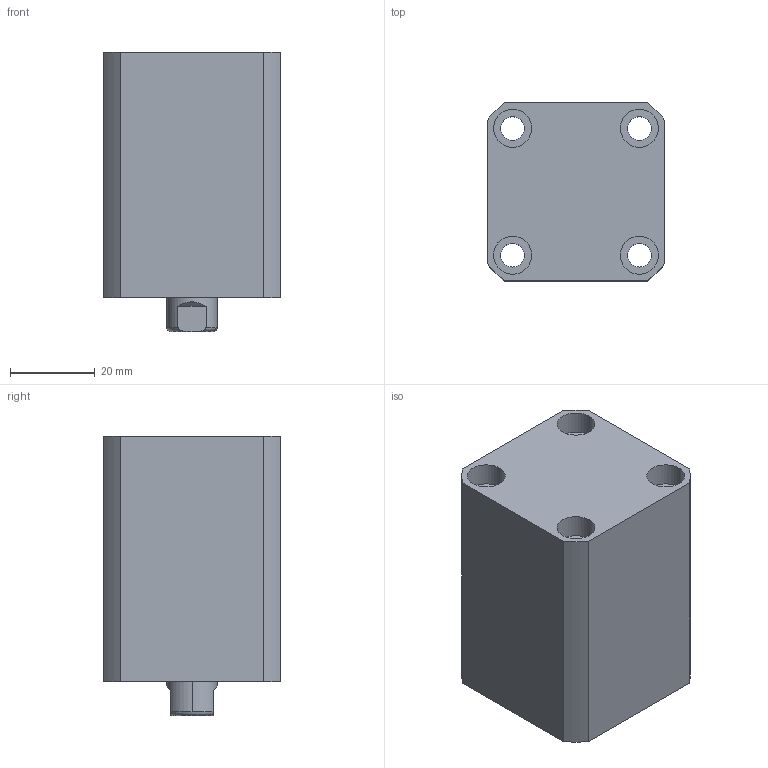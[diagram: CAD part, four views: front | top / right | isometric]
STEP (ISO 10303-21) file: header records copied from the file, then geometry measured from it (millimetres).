
FILE_DESCRIPTION (( 'STEP AP214' ), '1' );
FILE_NAME ('chtb-sd20x15n_asm.STEP', '2018-04-26T11:29:45', ( 'Windows' ), ( 'Microsoft' ), 'SwSTEP 2.0', 'SolidWorks 2015', '' );
FILE_SCHEMA (( 'AUTOMOTIVE_DESIGN' ));
Length unit declared in the file: millimetre
Products named in the file (4): QG; CHTB-SD20X15NHSG; CHTB-SD20X15NBT; chtb-sd20x15n_asm
Assembly tree (3 placements, depth 2):
  chtb-sd20x15n_asm
    CHTB-SD20X15NBT
    CHTB-SD20X15NHSG
    QG
Bounding box: 42 x 42 x 66 mm (x, y, z)
Volume: 87394.6 mm3; surface area: 29602.4 mm2
Topology: 3 solids, 3 shells, 192 faces, 499 edges, 330 vertices
Faces by surface type: cylinder 102, plane 36, torus 25, bspline 19, cone 10
Entity records: 10524 total; most frequent: CARTESIAN_POINT 5851, ORIENTED_EDGE 986, DIRECTION 903, EDGE_CURVE 493, AXIS2_PLACEMENT_3D 385, VERTEX_POINT 330, EDGE_LOOP 229, CIRCLE 206
